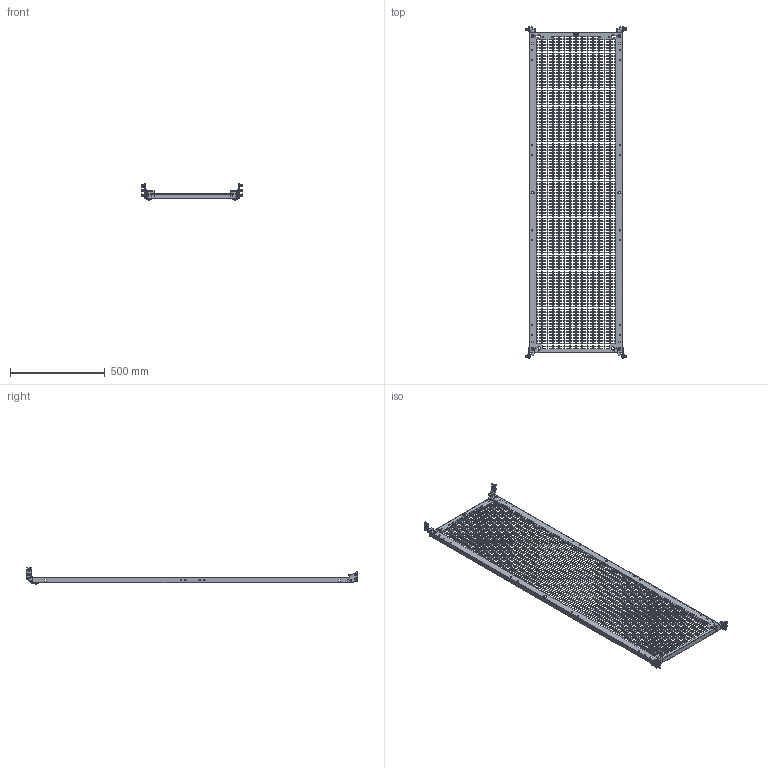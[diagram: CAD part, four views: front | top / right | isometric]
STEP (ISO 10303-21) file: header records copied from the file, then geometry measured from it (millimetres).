
FILE_DESCRIPTION (( 'STEP AP203' ), '1' );
FILE_NAME ('R5NPCEP1860.STEP', '2025-03-26T10:24:48', ( '' ), ( '' ), 'SwSTEP 2.0', 'SolidWorks 2022', '' );
FILE_SCHEMA (( 'CONFIG_CONTROL_DESIGN' ));
Length unit declared in the file: millimetre
Products named in the file (20): RB.2684.00.00.0 СБ_-01; M6 MGR-MKO-0625_1,5mm (thread); AC00C237; RB.2814.00.01.0; М6 D87181 Zinc_In a tightened position (1.5 mm); RB.2814.00.00.0 СБ_-01; RB.2684.00.03.0; RB.2628.00.00.0_-20; R5NPCEP1860; RB.2684.00.01.0; RB.1499.00.03.0; 003-006-19 GOST 9833-73; M6x16 DIN 912 HX cl.4,8 Zinc_thread; RB.2697.00.00.0; RB.2709.00.00.0; RB.2684.00.01.0_-01; RB.2814.00.01.0_-01; RB.2684.00.00.0 СБ; RB.2814.00.00.0 СБ; M6x16 DIN 7985 Torx cl.8,8 Zinc_stright
Assembly tree (43 placements, depth 3):
  R5NPCEP1860
    RB.2628.00.00.0_-20
    RB.2814.00.00.0 СБ_-01
      RB.2814.00.01.0_-01
      M6 MGR-MKO-0625_1,5mm (thread)
    RB.2814.00.00.0 СБ
      RB.2814.00.01.0
      M6 MGR-MKO-0625_1,5mm (thread)
    M6x16 DIN 912 HX cl.4,8 Zinc_thread  x2
    AC00C237  x2
    RB.2684.00.00.0 СБ_-01
      RB.2684.00.01.0_-01
      RB.2684.00.03.0
      RB.1499.00.03.0
      RB.2697.00.00.0
      003-006-19 GOST 9833-73  x2
    RB.2684.00.00.0 СБ
      RB.2684.00.01.0
      RB.2684.00.03.0
      RB.1499.00.03.0
      003-006-19 GOST 9833-73  x2
      RB.2697.00.00.0
    M6x16 DIN 7985 Torx cl.8,8 Zinc_stright  x8
    М6 D87181 Zinc_In a tightened position (1.5 mm)  x8
    RB.2709.00.00.0  x2
Bounding box: 528.3 x 1750.46 x 84.5 mm (x, y, z)
Volume: 1465987 mm3; surface area: 1475229.9 mm2
Topology: 39 solids, 39 shells, 8395 faces, 24429 edges, 16043 vertices
Faces by surface type: plane 7254, cylinder 514, bspline 301, cone 186, torus 132, sphere 8
Full cylindrical faces by diameter (mm): 0.6 x12, 2.3 x4, 2.5 x4, 3.8 x6, 4 x2, 4.2 x4, 4.92 x14, 5 x16, 6 x60, 6.5 x8, 6.7 x2, 7 x12, 7.5 x2, 8 x4, 8.3 x8, 9 x6, 10 x4, 12 x26, 15 x6
Entity records: 239591 total; most frequent: CARTESIAN_POINT 45311, ORIENTED_EDGE 40740, DIRECTION 34523, EDGE_CURVE 20370, VECTOR 19741, LINE 19741, VERTEX_POINT 13648, EDGE_LOOP 10414
